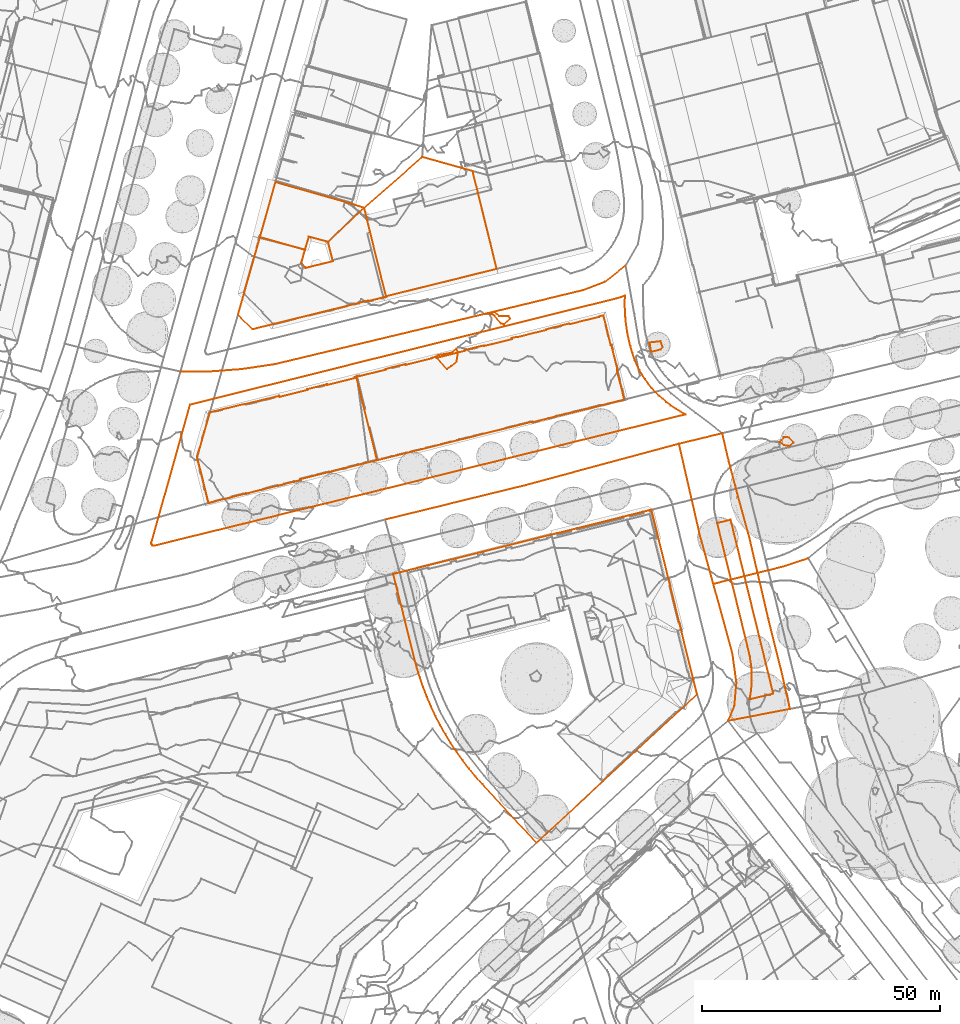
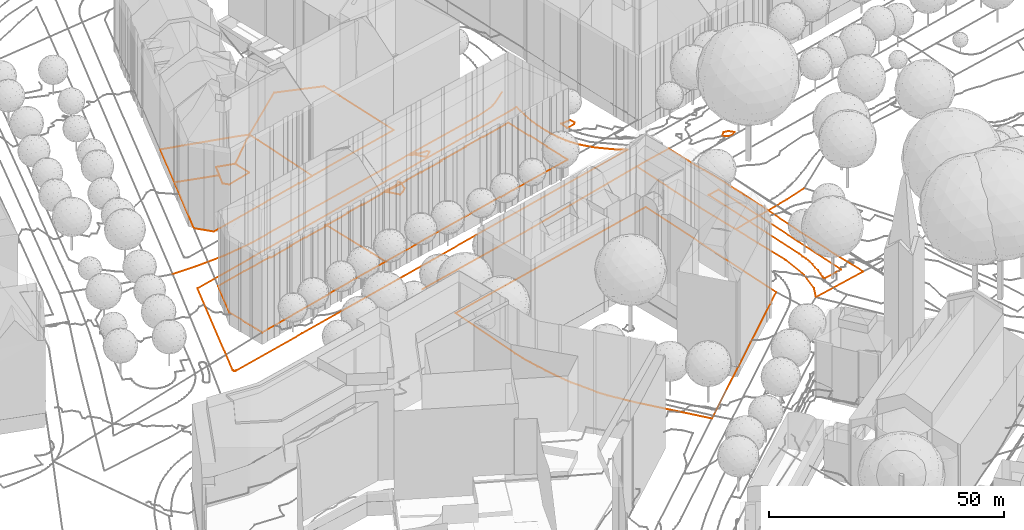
# Not in any storey, part 108 of 494: 23 proxies.
"""IFC2X3 model written with IfcOpenShell, lengths in metres."""

from ifc_helpers import new_model, entity, si_unit, frame, origin_with_axes, place, context, subcontext, project, element, save


model = new_model("IFC2X3")

# Units and contexts
model_context = context("Model", 3, precision=1e-05, world=origin_with_axes())
body_context = subcontext(model_context, "Body", "Model", "MODEL_VIEW")
ifc_project = project(units=[si_unit("AREAUNIT", "SQUARE_METRE"), si_unit("LENGTHUNIT", "METRE")], contexts=[model_context])

# Proxies
proxy_1_placement = place(None, frame((166.0887320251, 312.6697336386, 539.01), z_axis=(0.0, 0.0, 1.0), x_axis=(1.0, 0.0, 0.0)))
element("IfcBuildingElementProxy", 1, at=proxy_1_placement, Name="Road 11", ObjectType="NOTDEFINED", context=body_context, shape_type="GeometricCurveSet", body=[
    entity("IfcGeometricCurveSet", [entity("IfcPolyline", [entity("IfcCartesianPoint", [10.6570000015, 3.0959998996, 0.145]), entity("IfcCartesianPoint", [5.370000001, 1.3349999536, 0.133]), entity("IfcCartesianPoint", [0.0, 0.0, 0.0])])]),
])
proxy_2_placement = place(None, frame((44.610732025, 355.0317323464, 539.326), z_axis=(0.0, 0.0, 1.0), x_axis=(1.0, 0.0, 0.0)))
element("IfcBuildingElementProxy", 2, at=proxy_2_placement, Name="Road 31", ObjectType="NOTDEFINED", context=body_context, shape_type="GeometricCurveSet", body=[
    entity("IfcGeometricCurveSet", [entity("IfcPolyline", [entity("IfcCartesianPoint", [93.6970000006, 22.3649993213, 0.917]), entity("IfcCartesianPoint", [89.3830000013, 18.9139994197, 0.892]), entity("IfcCartesianPoint", [84.7730000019, 17.1449994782, 0.926]), entity("IfcCartesianPoint", [59.0560000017, 10.9539996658, 0.633]), entity("IfcCartesianPoint", [20.0730000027, 1.6049999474, 0.05]), entity("IfcCartesianPoint", [12.9010000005, 0.5239999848, -0.05]), entity("IfcCartesianPoint", [5.8740000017, -1.4e-09, 0.048]), entity("IfcCartesianPoint", [0.0, 0.0, 0.0])])]),
])
proxy_3_placement = place(None, frame((158.6437320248, 342.0537327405, 539.79), z_axis=(0.0, 0.0, 1.0), x_axis=(1.0, 0.0, 0.0)))
element("IfcBuildingElementProxy", 3, at=proxy_3_placement, Name="Road 38", ObjectType="NOTDEFINED", context=body_context, shape_type="GeometricCurveSet", body=[
    entity("IfcGeometricCurveSet", [entity("IfcPolyline", [entity("IfcCartesianPoint", [0.0, 0.0, 0.0]), entity("IfcCartesianPoint", [1.3720000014, -5.8889998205, -0.028]), entity("IfcCartesianPoint", [3.2240000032, -12.899999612, -0.065]), entity("IfcCartesianPoint", [5.7370000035, -22.0289993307, -0.482]), entity("IfcCartesianPoint", [7.4450000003, -29.3839991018, -0.78])])]),
])
proxy_4_placement = place(None, frame((156.7687320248, 310.3537337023, 538.777), z_axis=(0.0, 0.0, 1.0), x_axis=(1.0, 0.0, 0.0)))
element("IfcBuildingElementProxy", 4, at=proxy_4_placement, Name="Road 39", ObjectType="NOTDEFINED", context=body_context, shape_type="GeometricCurveSet", body=[
    entity("IfcGeometricCurveSet", [entity("IfcPolyline", [entity("IfcCartesianPoint", [9.3200000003, 2.3159999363, 0.233]), entity("IfcCartesianPoint", [0.0, 0.0, 0.0])])]),
])
proxy_5_placement = place(None, frame((156.7687320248, 310.3537337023, 538.777), z_axis=(0.0, 0.0, 1.0), x_axis=(1.0, 0.0, 0.0)))
element("IfcBuildingElementProxy", 5, at=proxy_5_placement, Name="Road 58", ObjectType="NOTDEFINED", context=body_context, shape_type="GeometricCurveSet", body=[
    entity("IfcGeometricCurveSet", [entity("IfcPolyline", [entity("IfcCartesianPoint", [3.0890000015, -28.8019991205, -1.226]), entity("IfcCartesianPoint", [4.4100000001, -25.7179992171, -1.136]), entity("IfcCartesianPoint", [4.8520000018, -20.7249993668, -0.937]), entity("IfcCartesianPoint", [3.9700000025, -14.4119995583, -0.589]), entity("IfcCartesianPoint", [0.0, 0.0, 0.0])])]),
])
proxy_6_placement = place(None, frame((87.6867320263, 323.8997332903, 539.136), z_axis=(0.0, 0.0, 1.0), x_axis=(1.0, 0.0, 0.0)))
element("IfcBuildingElementProxy", 6, at=proxy_6_placement, Name="Road 147", ObjectType="NOTDEFINED", context=body_context, shape_type="GeometricCurveSet", body=[
    entity("IfcGeometricCurveSet", [entity("IfcPolyline", [entity("IfcCartesianPoint", [0.0, 0.0, 0.0]), entity("IfcCartesianPoint", [29.3370000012, 7.1899997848, 0.275]), entity("IfcCartesianPoint", [61.8390000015, 15.9619995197, 0.571])])]),
])
proxy_7_placement = place(None, frame((149.5257320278, 339.86173281, 539.707), z_axis=(0.0, 0.0, 1.0), x_axis=(1.0, 0.0, 0.0)))
element("IfcBuildingElementProxy", 7, at=proxy_7_placement, Name="Road 148", ObjectType="NOTDEFINED", context=body_context, shape_type="GeometricCurveSet", body=[
    entity("IfcGeometricCurveSet", [entity("IfcPolyline", [entity("IfcCartesianPoint", [7.242999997, -29.5079991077, -0.93]), entity("IfcCartesianPoint", [4.4580000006, -19.395999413, -0.516]), entity("IfcCartesianPoint", [0.0, 0.0, 0.0])])]),
])
proxy_8_placement = place(None, frame((149.5257320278, 339.86173281, 539.707), z_axis=(0.0, 0.0, 1.0), x_axis=(1.0, 0.0, 0.0)))
element("IfcBuildingElementProxy", 8, at=proxy_8_placement, Name="Road 149", ObjectType="NOTDEFINED", context=body_context, shape_type="GeometricCurveSet", body=[
    entity("IfcGeometricCurveSet", [entity("IfcPolyline", [entity("IfcCartesianPoint", [0.0, 0.0, 0.0]), entity("IfcCartesianPoint", [9.117999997, 2.1919999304, 0.083])])]),
])
proxy_9_placement = place(None, frame((166.0887320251, 312.6697336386, 539.01), z_axis=(0.0, 0.0, 1.0), x_axis=(1.0, 0.0, 0.0)))
element("IfcBuildingElementProxy", 9, at=proxy_9_placement, Name="Road 153", ObjectType="NOTDEFINED", context=body_context, shape_type="GeometricCurveSet", body=[
    entity("IfcGeometricCurveSet", [entity("IfcPolyline", [entity("IfcCartesianPoint", [0.0, 0.0, 0.0]), entity("IfcCartesianPoint", [2.2600000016, -9.7099997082, -0.478]), entity("IfcCartesianPoint", [4.9070000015, -20.293999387, -0.903]), entity("IfcCartesianPoint", [6.8350000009, -28.6289991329, -0.888])])]),
])
proxy_10_placement = place(None, frame((159.8577320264, 281.5517345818, 537.551), z_axis=(0.0, 0.0, 1.0), x_axis=(1.0, 0.0, 0.0)))
element("IfcBuildingElementProxy", 10, at=proxy_10_placement, Name="Road 154", ObjectType="NOTDEFINED", context=body_context, shape_type="GeometricCurveSet", body=[
    entity("IfcGeometricCurveSet", [entity("IfcPolyline", [entity("IfcCartesianPoint", [13.0659999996, 2.4889999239, 0.571]), entity("IfcCartesianPoint", [0.0, 0.0, 0.0])])]),
])
proxy_11_placement = place(None, frame((157.5877320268, 323.1667160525, 539.6122491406), z_axis=(0.0, 0.0, 1.0), x_axis=(1.0, 0.0, 0.0)))
element("IfcBuildingElementProxy", 11, at=proxy_11_placement, Name="Roads Outline 0", ObjectType="NOTDEFINED", context=body_context, shape_type="GeometricCurveSet", body=[
    entity("IfcGeometricCurveSet", [entity("IfcPolyline", [entity("IfcCartesianPoint", [0.0, 0.0, 0.0]), entity("IfcCartesianPoint", [0.3100000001, 0.074, 0.0141704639]), entity("IfcCartesianPoint", [2.8149999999, 0.6739999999, -0.0397783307]), entity("IfcCartesianPoint", [11.7889999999, -35.905, -1.6767382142]), entity("IfcCartesianPoint", [7.156, -37.02, -1.5524340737]), entity("IfcCartesianPoint", [6.8160000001, -37.102, -1.5472691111]), entity("IfcCartesianPoint", [6.8700000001, -36.75, -1.5563232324]), entity("IfcCartesianPoint", [6.9359999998, -36.4010000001, -1.5587875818]), entity("IfcCartesianPoint", [7.1099999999, -35.189, -1.49187625]), entity("IfcCartesianPoint", [7.2199999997, -33.969, -1.4513543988]), entity("IfcCartesianPoint", [7.267, -32.7450000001, -1.4372526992]), entity("IfcCartesianPoint", [7.2489999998, -31.5209999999, -1.3929148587]), entity("IfcCartesianPoint", [7.1740000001, -30.3700000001, -1.3080893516]), entity("IfcCartesianPoint", [7.0430000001, -29.2239999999, -1.2799918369]), entity("IfcCartesianPoint", [6.8559999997, -28.0860000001, -1.2740201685]), entity("IfcCartesianPoint", [6.6140000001, -26.9580000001, -1.206023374]), entity("IfcCartesianPoint", [0.0, 0.0, 0.0])])]),
])
proxy_12_placement = place(None, frame((70.0037320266, 377.8297160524, 540.1197758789), z_axis=(0.0, 0.0, 1.0), x_axis=(1.0, 0.0, 0.0)))
element("IfcBuildingElementProxy", 12, at=proxy_12_placement, Name="Roads Outline 18", ObjectType="NOTDEFINED", context=body_context, shape_type="GeometricCurveSet", body=[
    entity("IfcGeometricCurveSet", [entity("IfcPolyline", [entity("IfcCartesianPoint", [0.0, 0.0, 0.0]), entity("IfcCartesianPoint", [0.7170000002, 2.5420000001, 0.1439188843]), entity("IfcCartesianPoint", [0.79, 2.8020000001, 0.1586303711]), entity("IfcCartesianPoint", [0.8510000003, 3.0050000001, 0.1702341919]), entity("IfcCartesianPoint", [1.6260000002, 5.5970000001, 0.3182834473]), entity("IfcCartesianPoint", [5.2950000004, 4.6130000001, 0.3783701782]), entity("IfcCartesianPoint", [5.6640000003, 4.514, 0.3844176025]), entity("IfcCartesianPoint", [5.7560000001, 4.155, 0.3697645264]), entity("IfcCartesianPoint", [6.682, 0.449, 0.2178024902]), entity("IfcCartesianPoint", [0.9740000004, -0.973, -0.0184506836]), entity("IfcCartesianPoint", [0.0, 0.0, 0.0])])]),
])
proxy_13_placement = place(None, frame((38.4687320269, 318.8527160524, 538.4867150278), z_axis=(0.0, 0.0, 1.0), x_axis=(1.0, 0.0, 0.0)))
element("IfcBuildingElementProxy", 13, at=proxy_13_placement, Name="Roads Outline 21", ObjectType="NOTDEFINED", context=body_context, shape_type="GeometricCurveSet", body=[
    entity("IfcGeometricCurveSet", [entity("IfcPolyline", [entity("IfcCartesianPoint", [0.0159999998, 0.1699999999, 0.0091430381]), entity("IfcCartesianPoint", [1.5159999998, 5.527, 0.1399186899]), entity("IfcCartesianPoint", [8.1569999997, 29.233, 0.6856784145]), entity("IfcCartesianPoint", [98.1349999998, 51.6469999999, 1.7951650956]), entity("IfcCartesianPoint", [98.9169999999, 51.8899999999, 1.7889605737]), entity("IfcCartesianPoint", [99.6839999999, 52.1739999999, 1.7582226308]), entity("IfcCartesianPoint", [99.6469999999, 50.6359999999, 1.7347486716]), entity("IfcCartesianPoint", [99.6779999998, 49.098, 1.7107829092]), entity("IfcCartesianPoint", [99.7760000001, 47.5630000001, 1.6716079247]), entity("IfcCartesianPoint", [99.9419999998, 46.034, 1.6125704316]), entity("IfcCartesianPoint", [100.1749999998, 44.513, 1.6066898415]), entity("IfcCartesianPoint", [100.4739999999, 43.004, 1.5900750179]), entity("IfcCartesianPoint", [100.8399999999, 41.51, 1.5576483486]), entity("IfcCartesianPoint", [101.2709999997, 40.0330000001, 1.5257045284]), entity("IfcCartesianPoint", [101.767, 38.577, 1.5180286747]), entity("IfcCartesianPoint", [102.2279999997, 37.5349999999, 1.5061079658]), entity("IfcCartesianPoint", [102.7429999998, 36.5190000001, 1.474962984]), entity("IfcCartesianPoint", [103.3100000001, 35.5319999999, 1.4662332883]), entity("IfcCartesianPoint", [103.9279999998, 34.575, 1.4622875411]), entity("IfcCartesianPoint", [104.5949999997, 33.652, 1.4414644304]), entity("IfcCartesianPoint", [105.3100000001, 32.7649999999, 1.4619456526]), entity("IfcCartesianPoint", [106.0699999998, 31.916, 1.4627455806]), entity("IfcCartesianPoint", [106.8109999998, 31.1680000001, 1.4706757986]), entity("IfcCartesianPoint", [107.5869999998, 30.456, 1.4914047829]), entity("IfcCartesianPoint", [108.3969999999, 29.7830000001, 1.4984925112]), entity("IfcCartesianPoint", [109.3459999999, 29.0519999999, 1.4559953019]), entity("IfcCartesianPoint", [110.3339999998, 28.3740000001, 1.4045912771]), entity("IfcCartesianPoint", [111.358, 27.7509999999, 1.3679856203]), entity("IfcCartesianPoint", [112.415, 27.186, 1.3819481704]), entity("IfcCartesianPoint", [48.3369999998, 11.3030000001, 0.6488010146]), entity("IfcCartesianPoint", [19.409, 4.1669999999, 0.3042453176]), entity("IfcCartesianPoint", [0.6689999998, -0.4380000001, 0.0416643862]), entity("IfcCartesianPoint", [0.4789999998, -0.4650000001, 0.0276344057]), entity("IfcCartesianPoint", [0.2930000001, -0.419, 0.0133722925]), entity("IfcCartesianPoint", [0.1369999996, -0.308, 0.0013706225]), entity("IfcCartesianPoint", [0.0419999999, -0.166, -0.0050545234]), entity("IfcCartesianPoint", [0.0, 0.0, 0.0]), entity("IfcCartesianPoint", [0.0159999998, 0.1699999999, 0.0091430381])])]),
])
proxy_14_placement = place(None, frame((89.4107320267, 312.4367160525, 539.3576506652), z_axis=(0.0, 0.0, 1.0), x_axis=(1.0, 0.0, 0.0)))
element("IfcBuildingElementProxy", 14, at=proxy_14_placement, Name="Cadastre 31", ObjectType="NOTDEFINED", context=body_context, shape_type="GeometricCurveSet", body=[
    entity("IfcGeometricCurveSet", [entity("IfcPolyline", [entity("IfcCartesianPoint", [0.0, 0.0, 0.0]), entity("IfcCartesianPoint", [54.3220000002, 13.5330000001, 0.2914802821]), entity("IfcCartesianPoint", [63.9190000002, -25.3149999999, -1.5921373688]), entity("IfcCartesianPoint", [30.1329999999, -56.544, -3.5888573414]), entity("IfcCartesianPoint", [18.764, -44.2350000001, -2.9400293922]), entity("IfcCartesianPoint", [17.3089999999, -42.6030000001, -2.8003509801]), entity("IfcCartesianPoint", [15.9139999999, -40.919, -2.7034153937]), entity("IfcCartesianPoint", [14.5810000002, -39.1870000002, -2.6635738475]), entity("IfcCartesianPoint", [13.3100000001, -37.4080000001, -2.5689396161]), entity("IfcCartesianPoint", [12.1030000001, -35.585, -2.3035120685]), entity("IfcCartesianPoint", [10.963, -33.719, -2.1797069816]), entity("IfcCartesianPoint", [9.8900000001, -31.814, -2.1333256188]), entity("IfcCartesianPoint", [8.8859999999, -29.872, -1.9507412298]), entity("IfcCartesianPoint", [7.952, -27.8940000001, -1.8487603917]), entity("IfcCartesianPoint", [7.0899999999, -25.885, -1.6421404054]), entity("IfcCartesianPoint", [6.3000000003, -23.845, -1.5313275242]), entity("IfcCartesianPoint", [5.585, -21.7790000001, -1.4493062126]), entity("IfcCartesianPoint", [4.9440000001, -19.6880000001, -1.4308984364]), entity("IfcCartesianPoint", [4.378, -17.5760000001, -1.2929604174]), entity("IfcCartesianPoint", [0.0, 0.0, 0.0])])]),
])
proxy_15_placement = place(None, frame((83.2757320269, 389.4997160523, 541.0732068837), z_axis=(0.0, 0.0, 1.0), x_axis=(1.0, 0.0, 0.0)))
element("IfcBuildingElementProxy", 15, at=proxy_15_placement, Name="Cadastre 67", ObjectType="NOTDEFINED", context=body_context, shape_type="GeometricCurveSet", body=[
    entity("IfcGeometricCurveSet", [entity("IfcPolyline", [entity("IfcCartesianPoint", [0.0, 0.0, 0.0]), entity("IfcCartesianPoint", [12.2199999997, 10.7030000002, 0.0976698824]), entity("IfcCartesianPoint", [22.824, 7.7340000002, -0.1651447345]), entity("IfcCartesianPoint", [23.9729999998, 3.0860000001, -0.2273521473]), entity("IfcCartesianPoint", [27.909, -12.8489999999, -0.7960333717]), entity("IfcCartesianPoint", [4.5989999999, -18.6099999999, -1.0269540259]), entity("IfcCartesianPoint", [0.6379999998, -2.5809999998, -0.1227357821]), entity("IfcCartesianPoint", [0.0, 0.0, 0.0])])]),
])
proxy_16_placement = place(None, frame((61.3387320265, 383.3217160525, 540.1321808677), z_axis=(0.0, 0.0, 1.0), x_axis=(1.0, 0.0, 0.0)))
element("IfcBuildingElementProxy", 16, at=proxy_16_placement, Name="Cadastre 69", ObjectType="NOTDEFINED", context=body_context, shape_type="GeometricCurveSet", body=[
    entity("IfcGeometricCurveSet", [entity("IfcPolyline", [entity("IfcCartesianPoint", [0.0, 0.0, 0.0]), entity("IfcCartesianPoint", [3.2480000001, 11.5799999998, 0.3663289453]), entity("IfcCartesianPoint", [19.2660000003, 7.014, 0.8888457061]), entity("IfcCartesianPoint", [21.9370000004, 6.1779999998, 0.9410260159]), entity("IfcCartesianPoint", [20.9440000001, 5.307, 0.8699518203]), entity("IfcCartesianPoint", [14.3290000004, -0.9780000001, 0.3720126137]), entity("IfcCartesianPoint", [10.2910000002, 0.105, 0.3058784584]), entity("IfcCartesianPoint", [9.4550000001, -2.6899999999, 0.1462253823]), entity("IfcCartesianPoint", [0.0, 0.0, 0.0])])]),
])
proxy_17_placement = place(None, frame((56.7227320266, 367.0757160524, 539.6892649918), z_axis=(0.0, 0.0, 1.0), x_axis=(1.0, 0.0, 0.0)))
element("IfcBuildingElementProxy", 17, at=proxy_17_placement, Name="Cadastre 70", ObjectType="NOTDEFINED", context=body_context, shape_type="GeometricCurveSet", body=[
    entity("IfcGeometricCurveSet", [entity("IfcPolyline", [entity("IfcCartesianPoint", [0.0, 0.0, 0.0]), entity("IfcCartesianPoint", [4.6159999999, 16.246, 0.442915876]), entity("IfcCartesianPoint", [14.071, 13.5560000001, 0.5891412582]), entity("IfcCartesianPoint", [14.9070000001, 16.351, 0.7487943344]), entity("IfcCartesianPoint", [18.9450000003, 15.2679999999, 0.8149284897]), entity("IfcCartesianPoint", [25.5600000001, 21.5530000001, 1.3128676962]), entity("IfcCartesianPoint", [26.5530000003, 22.4239999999, 1.3839418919]), entity("IfcCartesianPoint", [27.1910000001, 19.8430000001, 1.2612061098]), entity("IfcCartesianPoint", [31.1520000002, 3.814, 0.356987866]), entity("IfcCartesianPoint", [31.1750000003, 3.723, 0.3503865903]), entity("IfcCartesianPoint", [27.3900000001, 2.7879999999, 0.3242160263]), entity("IfcCartesianPoint", [27.3680000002, 2.879, 0.3284840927]), entity("IfcCartesianPoint", [3.023, -3.1370000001, -0.0243551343]), entity("IfcCartesianPoint", [0.0, 0.0, 0.0])])]),
])
proxy_18_placement = place(None, frame((81.6147320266, 353.9997160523, 539.7210523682), z_axis=(0.0, 0.0, 1.0), x_axis=(1.0, 0.0, 0.0)))
element("IfcBuildingElementProxy", 18, at=proxy_18_placement, Name="Cadastre 71", ObjectType="NOTDEFINED", context=body_context, shape_type="GeometricCurveSet", body=[
    entity("IfcGeometricCurveSet", [entity("IfcPolyline", [entity("IfcCartesianPoint", [0.0, 0.0, 0.0]), entity("IfcCartesianPoint", [0.648, 0.162, -0.0083649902]), entity("IfcCartesianPoint", [0.6670000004, 0.0830000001, -0.0096837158]), entity("IfcCartesianPoint", [6.2310000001, 1.4410000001, 0.0757055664]), entity("IfcCartesianPoint", [6.1950000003, 1.5870000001, 0.0781114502]), entity("IfcCartesianPoint", [10.3340000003, 2.6040000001, 0.1147890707]), entity("IfcCartesianPoint", [10.3700000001, 2.4580000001, 0.1126158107]), entity("IfcCartesianPoint", [15.923, 3.8530000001, 0.2407678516]), entity("IfcCartesianPoint", [15.9040000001, 3.9310000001, 0.242587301]), entity("IfcCartesianPoint", [16.8659999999, 4.1630000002, 0.2841919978]), entity("IfcCartesianPoint", [16.9220000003, 3.9300000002, 0.2779052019]), entity("IfcCartesianPoint", [22.7970000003, 5.3870000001, 0.2573998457]), entity("IfcCartesianPoint", [22.7609999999, 5.5330000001, 0.2603756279]), entity("IfcCartesianPoint", [26.8900000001, 6.554, 0.3138236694]), entity("IfcCartesianPoint", [26.926, 6.4080000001, 0.3120678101]), entity("IfcCartesianPoint", [32.7949999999, 7.8690000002, 0.3409678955]), entity("IfcCartesianPoint", [32.7380000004, 8.1020000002, 0.344449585]), entity("IfcCartesianPoint", [33.6970000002, 8.3360000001, 0.3401226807]), entity("IfcCartesianPoint", [33.7180000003, 8.2490000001, 0.3388235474]), entity("IfcCartesianPoint", [39.949, 9.7840000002, 0.4325582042]), entity("IfcCartesianPoint", [39.9130000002, 9.9300000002, 0.4361079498]), entity("IfcCartesianPoint", [44.8340000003, 11.148, 0.4657652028]), entity("IfcCartesianPoint", [44.8700000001, 11.0020000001, 0.4587704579]), entity("IfcCartesianPoint", [51.0819999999, 12.5450000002, 0.5401899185]), entity("IfcCartesianPoint", [51.0610000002, 12.6330000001, 0.5410574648]), entity("IfcCartesianPoint", [52.017, 12.8650000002, 0.5369343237]), entity("IfcCartesianPoint", [53.5619999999, 6.625, 0.374688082]), entity("IfcCartesianPoint", [53.6980000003, 6.6580000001, 0.3757295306]), entity("IfcCartesianPoint", [55.0, 1.4040000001, 0.2562241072]), entity("IfcCartesianPoint", [54.8640000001, 1.3700000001, 0.2583453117]), entity("IfcCartesianPoint", [56.4100000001, -4.865, 0.1649342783]), entity("IfcCartesianPoint", [37.162, -9.6159999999, 0.0608438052]), entity("IfcCartesianPoint", [37.1329999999, -9.4979999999, 0.0662165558]), entity("IfcCartesianPoint", [4.3790000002, -17.6159999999, -0.3052940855]), entity("IfcCartesianPoint", [0.0, 0.0, 0.0])])]),
])
proxy_19_placement = place(None, frame((48.1437320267, 337.0657160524, 539.0035499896), z_axis=(0.0, 0.0, 1.0), x_axis=(1.0, 0.0, 0.0)))
element("IfcBuildingElementProxy", 19, at=proxy_19_placement, Name="Cadastre 75", ObjectType="NOTDEFINED", context=body_context, shape_type="GeometricCurveSet", body=[
    entity("IfcGeometricCurveSet", [entity("IfcPolyline", [entity("IfcCartesianPoint", [0.0, 0.0, 0.0]), entity("IfcCartesianPoint", [2.656, 9.3740000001, 0.287071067]), entity("IfcCartesianPoint", [10.0819999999, 11.1799999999, 0.5179286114]), entity("IfcCartesianPoint", [10.0959999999, 11.122, 0.5166917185]), entity("IfcCartesianPoint", [17.2800000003, 12.875, 0.4924659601]), entity("IfcCartesianPoint", [17.3369999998, 12.642, 0.4878839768]), entity("IfcCartesianPoint", [23.2110000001, 14.1089999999, 0.5984778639]), entity("IfcCartesianPoint", [23.1740000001, 14.254, 0.6019284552]), entity("IfcCartesianPoint", [27.3110000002, 15.2930000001, 0.6734522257]), entity("IfcCartesianPoint", [27.3480000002, 15.148, 0.6710805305]), entity("IfcCartesianPoint", [33.2209999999, 16.615, 0.7174419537]), entity("IfcCartesianPoint", [33.1600000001, 16.858, 0.7215394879]), entity("IfcCartesianPoint", [33.4709999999, 16.9339999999, 0.7175023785]), entity("IfcCartesianPoint", [37.8500000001, -0.682, 0.4122082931]), entity("IfcCartesianPoint", [21.6940000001, -4.686, 0.2187227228]), entity("IfcCartesianPoint", [21.7319999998, -4.8389999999, 0.2161899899]), entity("IfcCartesianPoint", [2.3909999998, -9.673, -0.0806868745]), entity("IfcCartesianPoint", [0.0, 0.0, 0.0])])]),
])
proxy_20_placement = place(None, frame((109.7475849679, 367.1707160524, 540.0), z_axis=(0.0, 0.0, 1.0), x_axis=(1.0, 0.0, 0.0)))
element("IfcBuildingElementProxy", 20, at=proxy_20_placement, Name="Contour Line 540.0 m", ObjectType="NOTDEFINED", context=body_context, shape_type="GeometricCurveSet", body=[
    entity("IfcGeometricCurveSet", [entity("IfcPolyline", [entity("IfcCartesianPoint", [2.9301470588, -2.2128744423, 0.0]), entity("IfcCartesianPoint", [4.2246255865, -1.0, 0.0]), entity("IfcCartesianPoint", [3.9301470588, -0.4810810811, 0.0]), entity("IfcCartesianPoint", [1.9301470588, -0.417721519, 0.0]), entity("IfcCartesianPoint", [0.9301470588, 0.4384748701, 0.0]), entity("IfcCartesianPoint", [0.0, 0.0, 0.0]), entity("IfcCartesianPoint", [0.9301470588, -0.3382352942, 0.0]), entity("IfcCartesianPoint", [2.3611521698, -2.0, 0.0]), entity("IfcCartesianPoint", [2.9301470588, -2.2128744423, 0.0])])]),
])
proxy_21_placement = place(None, frame((143.3624249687, 361.1707160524, 540.0), z_axis=(0.0, 0.0, 1.0), x_axis=(1.0, 0.0, 0.0)))
element("IfcBuildingElementProxy", 21, at=proxy_21_placement, Name="Contour Line 540.0 m", ObjectType="NOTDEFINED", context=body_context, shape_type="GeometricCurveSet", body=[
    entity("IfcGeometricCurveSet", [entity("IfcPolyline", [entity("IfcCartesianPoint", [2.3153070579, -1.4640575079, 0.0]), entity("IfcCartesianPoint", [2.7057640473, -1.0, 0.0]), entity("IfcCartesianPoint", [2.3153070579, 0.2580239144, 0.0]), entity("IfcCartesianPoint", [0.0, 0.0, 0.0]), entity("IfcCartesianPoint", [0.3153070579, -1.9739130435, 0.0]), entity("IfcCartesianPoint", [2.3153070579, -1.4640575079, 0.0])])]),
])
proxy_22_placement = place(None, frame((98.3777320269, 358.1707160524, 540.0), z_axis=(0.0, 0.0, 1.0), x_axis=(1.0, 0.0, 0.0)))
element("IfcBuildingElementProxy", 22, at=proxy_22_placement, Name="Contour Line 540.0 m", ObjectType="NOTDEFINED", context=body_context, shape_type="GeometricCurveSet", body=[
    entity("IfcGeometricCurveSet", [entity("IfcPolyline", [entity("IfcCartesianPoint", [3.2302325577, -2.0, 0.0]), entity("IfcCartesianPoint", [2.2999999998, -2.5825242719, 0.0]), entity("IfcCartesianPoint", [0.0, 0.0, 0.0]), entity("IfcCartesianPoint", [0.2999999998, 0.2792937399, 0.0]), entity("IfcCartesianPoint", [3.2999999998, 0.838469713, 0.0]), entity("IfcCartesianPoint", [4.2999999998, 1.7121710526, 0.0]), entity("IfcCartesianPoint", [4.6500404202, 1.0, 0.0]), entity("IfcCartesianPoint", [4.2999999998, -1.0765550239, 0.0]), entity("IfcCartesianPoint", [3.2302325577, -2.0, 0.0])])]),
])
proxy_23_placement = place(None, frame((170.7439571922, 340.1707160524, 540.0), z_axis=(0.0, 0.0, 1.0), x_axis=(1.0, 0.0, 0.0)))
element("IfcBuildingElementProxy", 23, at=proxy_23_placement, Name="Contour Line 540.0 m", ObjectType="NOTDEFINED", context=body_context, shape_type="GeometricCurveSet", body=[
    entity("IfcGeometricCurveSet", [entity("IfcPolyline", [entity("IfcCartesianPoint", [2.9337748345, -0.0684079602, 0.0]), entity("IfcCartesianPoint", [1.9614564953, 1.0, 0.0]), entity("IfcCartesianPoint", [0.9337748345, 1.1228956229, 0.0]), entity("IfcCartesianPoint", [0.0, 0.0, 0.0]), entity("IfcCartesianPoint", [0.9337748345, -0.6351351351, 0.0]), entity("IfcCartesianPoint", [1.9337748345, -0.7862714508, 0.0]), entity("IfcCartesianPoint", [2.9337748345, -0.0684079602, 0.0])])]),
])

save(model, "model.ifc")
